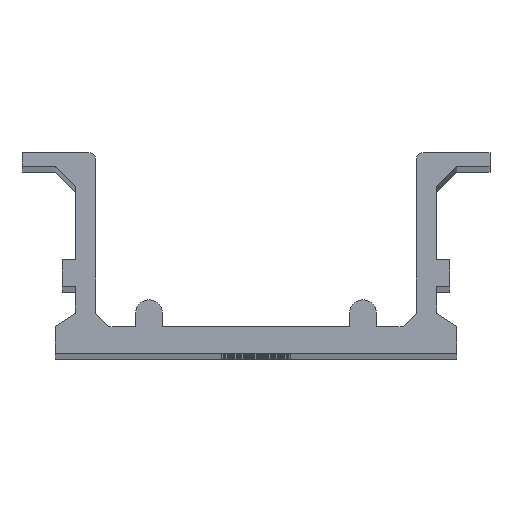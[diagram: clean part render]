
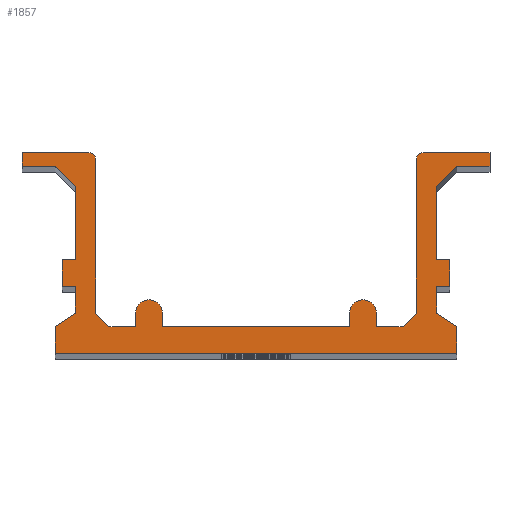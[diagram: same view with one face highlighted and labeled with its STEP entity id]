
A CAD part, top view. The second image highlights one B-rep face of the part: STEP entity #1857.
In plain terms, the highlighted planar face has unit normal (0, 0, 1).
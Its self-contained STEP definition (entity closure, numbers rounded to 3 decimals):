
#85=CIRCLE('',#2017,0.5);
#86=CIRCLE('',#2018,0.5);
#87=CIRCLE('',#2019,1.);
#88=CIRCLE('',#2020,1.);
#175=FACE_OUTER_BOUND('',#267,.T.);
#267=EDGE_LOOP('',(#1387,#1388,#1389,#1390,#1391,#1392,#1393,#1394,#1395,
#1396,#1397,#1398,#1399,#1400,#1401,#1402,#1403,#1404,#1405,#1406,#1407,
#1408,#1409,#1410,#1411,#1412,#1413,#1414,#1415,#1416,#1417,#1418,#1419,
#1420,#1421,#1422,#1423,#1424));
#429=LINE('',#2864,#639);
#430=LINE('',#2866,#640);
#431=LINE('',#2868,#641);
#432=LINE('',#2872,#642);
#433=LINE('',#2874,#643);
#434=LINE('',#2876,#644);
#435=LINE('',#2878,#645);
#436=LINE('',#2880,#646);
#437=LINE('',#2882,#647);
#438=LINE('',#2884,#648);
#439=LINE('',#2886,#649);
#440=LINE('',#2888,#650);
#441=LINE('',#2890,#651);
#442=LINE('',#2892,#652);
#443=LINE('',#2894,#653);
#444=LINE('',#2896,#654);
#445=LINE('',#2898,#655);
#446=LINE('',#2900,#656);
#447=LINE('',#2902,#657);
#448=LINE('',#2904,#658);
#449=LINE('',#2906,#659);
#450=LINE('',#2908,#660);
#451=LINE('',#2910,#661);
#452=LINE('',#2912,#662);
#453=LINE('',#2914,#663);
#454=LINE('',#2916,#664);
#455=LINE('',#2920,#665);
#456=LINE('',#2922,#666);
#457=LINE('',#2924,#667);
#458=LINE('',#2926,#668);
#459=LINE('',#2930,#669);
#460=LINE('',#2932,#670);
#461=LINE('',#2934,#671);
#462=LINE('',#2937,#672);
#639=VECTOR('',#2348,10.);
#640=VECTOR('',#2349,10.);
#641=VECTOR('',#2350,10.);
#642=VECTOR('',#2353,10.);
#643=VECTOR('',#2354,10.);
#644=VECTOR('',#2355,10.);
#645=VECTOR('',#2356,10.);
#646=VECTOR('',#2357,10.);
#647=VECTOR('',#2358,10.);
#648=VECTOR('',#2359,10.);
#649=VECTOR('',#2360,10.);
#650=VECTOR('',#2361,10.);
#651=VECTOR('',#2362,10.);
#652=VECTOR('',#2363,10.);
#653=VECTOR('',#2364,10.);
#654=VECTOR('',#2365,10.);
#655=VECTOR('',#2366,10.);
#656=VECTOR('',#2367,10.);
#657=VECTOR('',#2368,10.);
#658=VECTOR('',#2369,10.);
#659=VECTOR('',#2370,10.);
#660=VECTOR('',#2371,10.);
#661=VECTOR('',#2372,10.);
#662=VECTOR('',#2373,10.);
#663=VECTOR('',#2374,10.);
#664=VECTOR('',#2375,10.);
#665=VECTOR('',#2378,10.);
#666=VECTOR('',#2379,10.);
#667=VECTOR('',#2380,10.);
#668=VECTOR('',#2381,10.);
#669=VECTOR('',#2384,10.);
#670=VECTOR('',#2385,10.);
#671=VECTOR('',#2386,10.);
#672=VECTOR('',#2389,10.);
#849=VERTEX_POINT('',#2862);
#850=VERTEX_POINT('',#2863);
#851=VERTEX_POINT('',#2865);
#852=VERTEX_POINT('',#2867);
#853=VERTEX_POINT('',#2869);
#854=VERTEX_POINT('',#2871);
#855=VERTEX_POINT('',#2873);
#856=VERTEX_POINT('',#2875);
#857=VERTEX_POINT('',#2877);
#858=VERTEX_POINT('',#2879);
#859=VERTEX_POINT('',#2881);
#860=VERTEX_POINT('',#2883);
#861=VERTEX_POINT('',#2885);
#862=VERTEX_POINT('',#2887);
#863=VERTEX_POINT('',#2889);
#864=VERTEX_POINT('',#2891);
#865=VERTEX_POINT('',#2893);
#866=VERTEX_POINT('',#2895);
#867=VERTEX_POINT('',#2897);
#868=VERTEX_POINT('',#2899);
#869=VERTEX_POINT('',#2901);
#870=VERTEX_POINT('',#2903);
#871=VERTEX_POINT('',#2905);
#872=VERTEX_POINT('',#2907);
#873=VERTEX_POINT('',#2909);
#874=VERTEX_POINT('',#2911);
#875=VERTEX_POINT('',#2913);
#876=VERTEX_POINT('',#2915);
#877=VERTEX_POINT('',#2917);
#878=VERTEX_POINT('',#2919);
#879=VERTEX_POINT('',#2921);
#880=VERTEX_POINT('',#2923);
#881=VERTEX_POINT('',#2925);
#882=VERTEX_POINT('',#2927);
#883=VERTEX_POINT('',#2929);
#884=VERTEX_POINT('',#2931);
#885=VERTEX_POINT('',#2933);
#886=VERTEX_POINT('',#2935);
#1073=EDGE_CURVE('',#849,#850,#429,.T.);
#1074=EDGE_CURVE('',#850,#851,#430,.T.);
#1075=EDGE_CURVE('',#851,#852,#431,.T.);
#1076=EDGE_CURVE('',#852,#853,#85,.T.);
#1077=EDGE_CURVE('',#853,#854,#432,.T.);
#1078=EDGE_CURVE('',#854,#855,#433,.T.);
#1079=EDGE_CURVE('',#855,#856,#434,.T.);
#1080=EDGE_CURVE('',#856,#857,#435,.T.);
#1081=EDGE_CURVE('',#857,#858,#436,.T.);
#1082=EDGE_CURVE('',#858,#859,#437,.T.);
#1083=EDGE_CURVE('',#859,#860,#438,.T.);
#1084=EDGE_CURVE('',#860,#861,#439,.T.);
#1085=EDGE_CURVE('',#861,#862,#440,.T.);
#1086=EDGE_CURVE('',#862,#863,#441,.T.);
#1087=EDGE_CURVE('',#863,#864,#442,.T.);
#1088=EDGE_CURVE('',#864,#865,#443,.T.);
#1089=EDGE_CURVE('',#865,#866,#444,.T.);
#1090=EDGE_CURVE('',#866,#867,#445,.T.);
#1091=EDGE_CURVE('',#867,#868,#446,.T.);
#1092=EDGE_CURVE('',#868,#869,#447,.T.);
#1093=EDGE_CURVE('',#869,#870,#448,.T.);
#1094=EDGE_CURVE('',#870,#871,#449,.T.);
#1095=EDGE_CURVE('',#871,#872,#450,.T.);
#1096=EDGE_CURVE('',#872,#873,#451,.T.);
#1097=EDGE_CURVE('',#873,#874,#452,.T.);
#1098=EDGE_CURVE('',#874,#875,#453,.T.);
#1099=EDGE_CURVE('',#875,#876,#454,.T.);
#1100=EDGE_CURVE('',#876,#877,#86,.T.);
#1101=EDGE_CURVE('',#877,#878,#455,.T.);
#1102=EDGE_CURVE('',#878,#879,#456,.T.);
#1103=EDGE_CURVE('',#879,#880,#457,.T.);
#1104=EDGE_CURVE('',#880,#881,#458,.T.);
#1105=EDGE_CURVE('',#881,#882,#87,.T.);
#1106=EDGE_CURVE('',#882,#883,#459,.T.);
#1107=EDGE_CURVE('',#883,#884,#460,.T.);
#1108=EDGE_CURVE('',#884,#885,#461,.T.);
#1109=EDGE_CURVE('',#885,#886,#88,.T.);
#1110=EDGE_CURVE('',#886,#849,#462,.T.);
#1387=ORIENTED_EDGE('',*,*,#1073,.T.);
#1388=ORIENTED_EDGE('',*,*,#1074,.T.);
#1389=ORIENTED_EDGE('',*,*,#1075,.T.);
#1390=ORIENTED_EDGE('',*,*,#1076,.T.);
#1391=ORIENTED_EDGE('',*,*,#1077,.T.);
#1392=ORIENTED_EDGE('',*,*,#1078,.T.);
#1393=ORIENTED_EDGE('',*,*,#1079,.T.);
#1394=ORIENTED_EDGE('',*,*,#1080,.T.);
#1395=ORIENTED_EDGE('',*,*,#1081,.T.);
#1396=ORIENTED_EDGE('',*,*,#1082,.T.);
#1397=ORIENTED_EDGE('',*,*,#1083,.T.);
#1398=ORIENTED_EDGE('',*,*,#1084,.T.);
#1399=ORIENTED_EDGE('',*,*,#1085,.T.);
#1400=ORIENTED_EDGE('',*,*,#1086,.T.);
#1401=ORIENTED_EDGE('',*,*,#1087,.T.);
#1402=ORIENTED_EDGE('',*,*,#1088,.T.);
#1403=ORIENTED_EDGE('',*,*,#1089,.T.);
#1404=ORIENTED_EDGE('',*,*,#1090,.T.);
#1405=ORIENTED_EDGE('',*,*,#1091,.T.);
#1406=ORIENTED_EDGE('',*,*,#1092,.T.);
#1407=ORIENTED_EDGE('',*,*,#1093,.T.);
#1408=ORIENTED_EDGE('',*,*,#1094,.T.);
#1409=ORIENTED_EDGE('',*,*,#1095,.T.);
#1410=ORIENTED_EDGE('',*,*,#1096,.T.);
#1411=ORIENTED_EDGE('',*,*,#1097,.T.);
#1412=ORIENTED_EDGE('',*,*,#1098,.T.);
#1413=ORIENTED_EDGE('',*,*,#1099,.T.);
#1414=ORIENTED_EDGE('',*,*,#1100,.T.);
#1415=ORIENTED_EDGE('',*,*,#1101,.T.);
#1416=ORIENTED_EDGE('',*,*,#1102,.T.);
#1417=ORIENTED_EDGE('',*,*,#1103,.T.);
#1418=ORIENTED_EDGE('',*,*,#1104,.T.);
#1419=ORIENTED_EDGE('',*,*,#1105,.T.);
#1420=ORIENTED_EDGE('',*,*,#1106,.T.);
#1421=ORIENTED_EDGE('',*,*,#1107,.T.);
#1422=ORIENTED_EDGE('',*,*,#1108,.T.);
#1423=ORIENTED_EDGE('',*,*,#1109,.T.);
#1424=ORIENTED_EDGE('',*,*,#1110,.T.);
#1773=PLANE('',#2016);
#1857=ADVANCED_FACE('',(#175),#1773,.T.);
#2016=AXIS2_PLACEMENT_3D('',#2861,#2346,#2347);
#2017=AXIS2_PLACEMENT_3D('',#2870,#2351,#2352);
#2018=AXIS2_PLACEMENT_3D('',#2918,#2376,#2377);
#2019=AXIS2_PLACEMENT_3D('',#2928,#2382,#2383);
#2020=AXIS2_PLACEMENT_3D('',#2936,#2387,#2388);
#2346=DIRECTION('center_axis',(0.,0.,1.));
#2347=DIRECTION('ref_axis',(1.,0.,0.));
#2348=DIRECTION('',(-1.,0.,0.));
#2349=DIRECTION('',(-0.707,0.707,0.));
#2350=DIRECTION('',(0.,1.,0.));
#2351=DIRECTION('center_axis',(0.,0.,1.));
#2352=DIRECTION('ref_axis',(1.,0.,0.));
#2353=DIRECTION('',(-1.,0.,0.));
#2354=DIRECTION('',(0.,-1.,0.));
#2355=DIRECTION('',(1.,0.,0.));
#2356=DIRECTION('',(0.707,-0.707,0.));
#2357=DIRECTION('',(0.,-1.,0.));
#2358=DIRECTION('',(-1.,0.,0.));
#2359=DIRECTION('',(0.,-1.,0.));
#2360=DIRECTION('',(1.,0.,0.));
#2361=DIRECTION('',(0.,-1.,0.));
#2362=DIRECTION('',(-0.832,-0.555,0.));
#2363=DIRECTION('',(0.,-1.,0.));
#2364=DIRECTION('',(1.,0.,0.));
#2365=DIRECTION('',(0.,1.,0.));
#2366=DIRECTION('',(-0.832,0.555,0.));
#2367=DIRECTION('',(0.,1.,0.));
#2368=DIRECTION('',(1.,0.,0.));
#2369=DIRECTION('',(0.,1.,0.));
#2370=DIRECTION('',(-1.,0.,0.));
#2371=DIRECTION('',(0.,1.,0.));
#2372=DIRECTION('',(0.707,0.707,0.));
#2373=DIRECTION('',(1.,0.,0.));
#2374=DIRECTION('',(0.,1.,0.));
#2375=DIRECTION('',(-1.,0.,0.));
#2376=DIRECTION('center_axis',(0.,0.,1.));
#2377=DIRECTION('ref_axis',(0.,1.,0.));
#2378=DIRECTION('',(0.,-1.,0.));
#2379=DIRECTION('',(-0.707,-0.707,0.));
#2380=DIRECTION('',(-1.,0.,0.));
#2381=DIRECTION('',(0.,1.,0.));
#2382=DIRECTION('center_axis',(0.,0.,1.));
#2383=DIRECTION('ref_axis',(1.,0.,0.));
#2384=DIRECTION('',(0.,-1.,0.));
#2385=DIRECTION('',(-1.,0.,0.));
#2386=DIRECTION('',(0.,1.,0.));
#2387=DIRECTION('center_axis',(0.,0.,1.));
#2388=DIRECTION('ref_axis',(1.,0.,0.));
#2389=DIRECTION('',(0.,-1.,0.));
#2861=CARTESIAN_POINT('Origin',(0.,7.5,257.));
#2862=CARTESIAN_POINT('',(-9.,2.,257.));
#2863=CARTESIAN_POINT('',(-11.,2.,257.));
#2864=CARTESIAN_POINT('',(-9.,2.,257.));
#2865=CARTESIAN_POINT('',(-12.,3.,257.));
#2866=CARTESIAN_POINT('',(-11.,2.,257.));
#2867=CARTESIAN_POINT('',(-12.,14.5,257.));
#2868=CARTESIAN_POINT('',(-12.,3.,257.));
#2869=CARTESIAN_POINT('',(-12.5,15.,257.));
#2870=CARTESIAN_POINT('Origin',(-12.5,14.5,257.));
#2871=CARTESIAN_POINT('',(-17.5,15.,257.));
#2872=CARTESIAN_POINT('',(-12.5,15.,257.));
#2873=CARTESIAN_POINT('',(-17.5,14.,257.));
#2874=CARTESIAN_POINT('',(-17.5,15.,257.));
#2875=CARTESIAN_POINT('',(-15.,14.,257.));
#2876=CARTESIAN_POINT('',(-17.5,14.,257.));
#2877=CARTESIAN_POINT('',(-13.5,12.5,257.));
#2878=CARTESIAN_POINT('',(-15.,14.,257.));
#2879=CARTESIAN_POINT('',(-13.5,7.,257.));
#2880=CARTESIAN_POINT('',(-13.5,12.5,257.));
#2881=CARTESIAN_POINT('',(-14.5,7.,257.));
#2882=CARTESIAN_POINT('',(-13.5,7.,257.));
#2883=CARTESIAN_POINT('',(-14.5,5.,257.));
#2884=CARTESIAN_POINT('',(-14.5,7.,257.));
#2885=CARTESIAN_POINT('',(-13.5,5.,257.));
#2886=CARTESIAN_POINT('',(-14.5,5.,257.));
#2887=CARTESIAN_POINT('',(-13.5,3.,257.));
#2888=CARTESIAN_POINT('',(-13.5,5.,257.));
#2889=CARTESIAN_POINT('',(-15.,2.,257.));
#2890=CARTESIAN_POINT('',(-13.5,3.,257.));
#2891=CARTESIAN_POINT('',(-15.,0.,257.));
#2892=CARTESIAN_POINT('',(-15.,2.,257.));
#2893=CARTESIAN_POINT('',(15.,0.,257.));
#2894=CARTESIAN_POINT('',(-15.,0.,257.));
#2895=CARTESIAN_POINT('',(15.,2.,257.));
#2896=CARTESIAN_POINT('',(15.,0.,257.));
#2897=CARTESIAN_POINT('',(13.5,3.,257.));
#2898=CARTESIAN_POINT('',(15.,2.,257.));
#2899=CARTESIAN_POINT('',(13.5,5.,257.));
#2900=CARTESIAN_POINT('',(13.5,3.,257.));
#2901=CARTESIAN_POINT('',(14.5,5.,257.));
#2902=CARTESIAN_POINT('',(13.5,5.,257.));
#2903=CARTESIAN_POINT('',(14.5,7.,257.));
#2904=CARTESIAN_POINT('',(14.5,5.,257.));
#2905=CARTESIAN_POINT('',(13.5,7.,257.));
#2906=CARTESIAN_POINT('',(14.5,7.,257.));
#2907=CARTESIAN_POINT('',(13.5,12.5,257.));
#2908=CARTESIAN_POINT('',(13.5,7.,257.));
#2909=CARTESIAN_POINT('',(15.,14.,257.));
#2910=CARTESIAN_POINT('',(13.5,12.5,257.));
#2911=CARTESIAN_POINT('',(17.5,14.,257.));
#2912=CARTESIAN_POINT('',(15.,14.,257.));
#2913=CARTESIAN_POINT('',(17.5,15.,257.));
#2914=CARTESIAN_POINT('',(17.5,14.,257.));
#2915=CARTESIAN_POINT('',(12.5,15.,257.));
#2916=CARTESIAN_POINT('',(17.5,15.,257.));
#2917=CARTESIAN_POINT('',(12.,14.5,257.));
#2918=CARTESIAN_POINT('Origin',(12.5,14.5,257.));
#2919=CARTESIAN_POINT('',(12.,3.,257.));
#2920=CARTESIAN_POINT('',(12.,14.5,257.));
#2921=CARTESIAN_POINT('',(11.,2.,257.));
#2922=CARTESIAN_POINT('',(12.,3.,257.));
#2923=CARTESIAN_POINT('',(9.,2.,257.));
#2924=CARTESIAN_POINT('',(11.,2.,257.));
#2925=CARTESIAN_POINT('',(9.,3.,257.));
#2926=CARTESIAN_POINT('',(9.,2.,257.));
#2927=CARTESIAN_POINT('',(7.,3.,257.));
#2928=CARTESIAN_POINT('Origin',(8.,3.,257.));
#2929=CARTESIAN_POINT('',(7.,2.,257.));
#2930=CARTESIAN_POINT('',(7.,3.,257.));
#2931=CARTESIAN_POINT('',(-7.,2.,257.));
#2932=CARTESIAN_POINT('',(7.,2.,257.));
#2933=CARTESIAN_POINT('',(-7.,3.,257.));
#2934=CARTESIAN_POINT('',(-7.,2.,257.));
#2935=CARTESIAN_POINT('',(-9.,3.,257.));
#2936=CARTESIAN_POINT('Origin',(-8.,3.,257.));
#2937=CARTESIAN_POINT('',(-9.,3.,257.));
